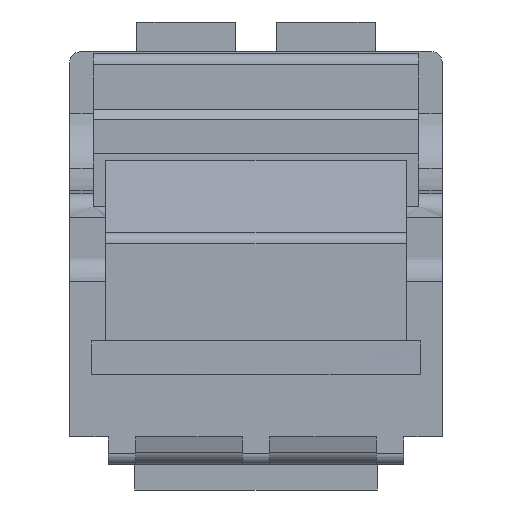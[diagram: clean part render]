
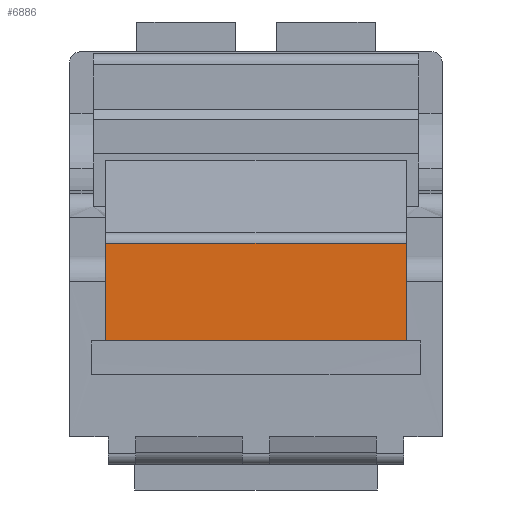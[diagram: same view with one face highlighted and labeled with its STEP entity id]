
A CAD part, left-side view. The second image highlights one B-rep face of the part: STEP entity #6886.
In plain terms, the highlighted free-form (B-spline) face has degree [1, 1] with [2, 2] control points.
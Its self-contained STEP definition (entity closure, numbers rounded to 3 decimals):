
#6467=CARTESIAN_POINT('',(-0.099,7.05,9.101));
#6468=VERTEX_POINT('',#6467);
#6487=CARTESIAN_POINT('',(-0.099,7.05,4.509));
#6488=VERTEX_POINT('',#6487);
#6489=CARTESIAN_POINT('',(-0.099,7.05,9.101));
#6490=CARTESIAN_POINT('',(-0.099,7.05,8.182));
#6491=CARTESIAN_POINT('',(-0.099,7.05,7.264));
#6492=CARTESIAN_POINT('',(-0.099,7.05,6.345));
#6493=CARTESIAN_POINT('',(-0.099,7.05,5.427));
#6494=CARTESIAN_POINT('',(-0.099,7.05,4.509));
#6495=B_SPLINE_CURVE_WITH_KNOTS('',5,(#6489,#6490,#6491,#6492,#6493,#6494),.UNSPECIFIED.,.F.,.U.,(6,6),(0.,4.592),.UNSPECIFIED.);
#6496=EDGE_CURVE('',#6468,#6488,#6495,.T.);
#6635=CARTESIAN_POINT('',(-0.099,-7.05,9.101));
#6636=VERTEX_POINT('',#6635);
#6655=CARTESIAN_POINT('',(-0.099,-7.05,4.509));
#6656=VERTEX_POINT('',#6655);
#6657=CARTESIAN_POINT('',(-0.099,-7.05,9.101));
#6658=CARTESIAN_POINT('',(-0.099,-7.05,8.182));
#6659=CARTESIAN_POINT('',(-0.099,-7.05,7.264));
#6660=CARTESIAN_POINT('',(-0.099,-7.05,6.345));
#6661=CARTESIAN_POINT('',(-0.099,-7.05,5.427));
#6662=CARTESIAN_POINT('',(-0.099,-7.05,4.509));
#6663=B_SPLINE_CURVE_WITH_KNOTS('',5,(#6657,#6658,#6659,#6660,#6661,#6662),.UNSPECIFIED.,.F.,.U.,(6,6),(0.,4.592),.UNSPECIFIED.);
#6664=EDGE_CURVE('',#6636,#6656,#6663,.T.);
#6725=CARTESIAN_POINT('',(-0.099,7.05,4.509));
#6726=CARTESIAN_POINT('',(-0.099,4.23,4.509));
#6727=CARTESIAN_POINT('',(-0.099,1.41,4.509));
#6728=CARTESIAN_POINT('',(-0.099,-1.41,4.509));
#6729=CARTESIAN_POINT('',(-0.099,-4.23,4.509));
#6730=CARTESIAN_POINT('',(-0.099,-7.05,4.509));
#6731=B_SPLINE_CURVE_WITH_KNOTS('',5,(#6725,#6726,#6727,#6728,#6729,#6730),.UNSPECIFIED.,.F.,.U.,(6,6),(0.,14.1),.UNSPECIFIED.);
#6732=EDGE_CURVE('',#6488,#6656,#6731,.T.);
#6753=CARTESIAN_POINT('',(-0.099,7.05,9.101));
#6754=CARTESIAN_POINT('',(-0.099,4.23,9.101));
#6755=CARTESIAN_POINT('',(-0.099,1.41,9.101));
#6756=CARTESIAN_POINT('',(-0.099,-1.41,9.101));
#6757=CARTESIAN_POINT('',(-0.099,-4.23,9.101));
#6758=CARTESIAN_POINT('',(-0.099,-7.05,9.101));
#6759=B_SPLINE_CURVE_WITH_KNOTS('',5,(#6753,#6754,#6755,#6756,#6757,#6758),.UNSPECIFIED.,.F.,.U.,(6,6),(0.,14.1),.UNSPECIFIED.);
#6760=EDGE_CURVE('',#6468,#6636,#6759,.T.);
#6875=CARTESIAN_POINT('',(-0.099,7.05,9.101));
#6876=CARTESIAN_POINT('',(-0.099,-7.05,9.101));
#6877=CARTESIAN_POINT('',(-0.099,7.05,4.509));
#6878=CARTESIAN_POINT('',(-0.099,-7.05,4.509));
#6879=B_SPLINE_SURFACE_WITH_KNOTS('',1,1,((#6875,#6876),(#6877,#6878)),.PLANE_SURF.,.F.,.F.,.U.,(2,2),(2,2),(0.,4.592),(0.,14.1),.UNSPECIFIED.);
#6880=ORIENTED_EDGE('',*,*,#6496,.T.);
#6881=ORIENTED_EDGE('',*,*,#6732,.T.);
#6882=ORIENTED_EDGE('',*,*,#6664,.F.);
#6883=ORIENTED_EDGE('',*,*,#6760,.F.);
#6884=EDGE_LOOP('',(#6880,#6881,#6882,#6883));
#6885=FACE_OUTER_BOUND('',#6884,.T.);
#6886=ADVANCED_FACE('',(#6885),#6879,.T.);
